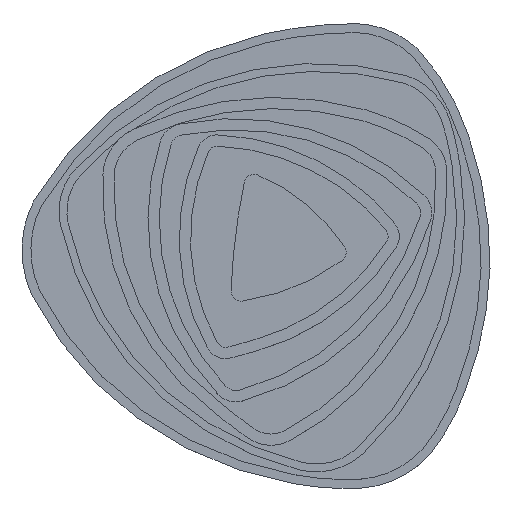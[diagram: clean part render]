
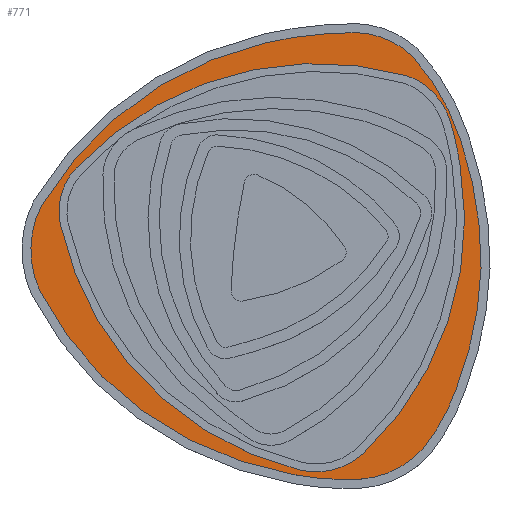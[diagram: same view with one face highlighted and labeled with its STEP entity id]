
A CAD part, top view. The second image highlights one B-rep face of the part: STEP entity #771.
In plain terms, the highlighted planar face has unit normal (0, 0, 1).
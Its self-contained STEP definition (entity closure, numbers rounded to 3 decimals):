
#369=PLANE('',#8435);
#532=FACE_BOUND('',#1879,.T.);
#533=FACE_BOUND('',#1880,.T.);
#771=ADVANCED_FACE('',(#532,#533),#369,.T.);
#1879=EDGE_LOOP('',(#3913,#3914,#3915,#3916,#3917,#3918,#3919));
#1880=EDGE_LOOP('',(#3920,#3921,#3922,#3923,#3924,#3925,#3926,#3927,#3928,
#3929,#3930,#3931));
#3913=ORIENTED_EDGE('',*,*,#6702,.T.);
#3914=ORIENTED_EDGE('',*,*,#6703,.T.);
#3915=ORIENTED_EDGE('',*,*,#6704,.T.);
#3916=ORIENTED_EDGE('',*,*,#6705,.T.);
#3917=ORIENTED_EDGE('',*,*,#6706,.T.);
#3918=ORIENTED_EDGE('',*,*,#6707,.T.);
#3919=ORIENTED_EDGE('',*,*,#6708,.T.);
#3920=ORIENTED_EDGE('',*,*,#6709,.F.);
#3921=ORIENTED_EDGE('',*,*,#6710,.F.);
#3922=ORIENTED_EDGE('',*,*,#6711,.F.);
#3923=ORIENTED_EDGE('',*,*,#6712,.F.);
#3924=ORIENTED_EDGE('',*,*,#6713,.F.);
#3925=ORIENTED_EDGE('',*,*,#6714,.F.);
#3926=ORIENTED_EDGE('',*,*,#6715,.F.);
#3927=ORIENTED_EDGE('',*,*,#6716,.F.);
#3928=ORIENTED_EDGE('',*,*,#6717,.F.);
#3929=ORIENTED_EDGE('',*,*,#6718,.F.);
#3930=ORIENTED_EDGE('',*,*,#6719,.F.);
#3931=ORIENTED_EDGE('',*,*,#6720,.F.);
#5799=VERTEX_POINT('',#12142);
#5800=VERTEX_POINT('',#12143);
#5801=VERTEX_POINT('',#12145);
#5802=VERTEX_POINT('',#12147);
#5803=VERTEX_POINT('',#12149);
#5804=VERTEX_POINT('',#12151);
#5805=VERTEX_POINT('',#12153);
#5806=VERTEX_POINT('',#12156);
#5807=VERTEX_POINT('',#12157);
#5808=VERTEX_POINT('',#12159);
#5809=VERTEX_POINT('',#12161);
#5810=VERTEX_POINT('',#12163);
#5811=VERTEX_POINT('',#12165);
#5812=VERTEX_POINT('',#12167);
#5813=VERTEX_POINT('',#12169);
#5814=VERTEX_POINT('',#12171);
#5815=VERTEX_POINT('',#12173);
#5816=VERTEX_POINT('',#12175);
#5817=VERTEX_POINT('',#12177);
#6702=EDGE_CURVE('',#5799,#5800,#7762,.T.);
#6703=EDGE_CURVE('',#5800,#5801,#7763,.T.);
#6704=EDGE_CURVE('',#5801,#5802,#7764,.T.);
#6705=EDGE_CURVE('',#5802,#5803,#7765,.T.);
#6706=EDGE_CURVE('',#5803,#5804,#7766,.T.);
#6707=EDGE_CURVE('',#5804,#5805,#7767,.T.);
#6708=EDGE_CURVE('',#5805,#5799,#7768,.T.);
#6709=EDGE_CURVE('',#5806,#5807,#7769,.T.);
#6710=EDGE_CURVE('',#5808,#5806,#7770,.T.);
#6711=EDGE_CURVE('',#5809,#5808,#7771,.T.);
#6712=EDGE_CURVE('',#5810,#5809,#7772,.T.);
#6713=EDGE_CURVE('',#5811,#5810,#7773,.T.);
#6714=EDGE_CURVE('',#5812,#5811,#7774,.T.);
#6715=EDGE_CURVE('',#5813,#5812,#7775,.T.);
#6716=EDGE_CURVE('',#5814,#5813,#7776,.T.);
#6717=EDGE_CURVE('',#5815,#5814,#7777,.T.);
#6718=EDGE_CURVE('',#5816,#5815,#7778,.T.);
#6719=EDGE_CURVE('',#5817,#5816,#7779,.T.);
#6720=EDGE_CURVE('',#5807,#5817,#7780,.T.);
#7762=CIRCLE('',#8416,42.912);
#7763=CIRCLE('',#8417,329.661);
#7764=CIRCLE('',#8418,50.12);
#7765=CIRCLE('',#8419,345.034);
#7766=CIRCLE('',#8420,316.681);
#7767=CIRCLE('',#8421,49.278);
#7768=CIRCLE('',#8422,320.821);
#7769=CIRCLE('',#8423,92.061);
#7770=CIRCLE('',#8424,448.492);
#7771=CIRCLE('',#8425,377.962);
#7772=CIRCLE('',#8426,104.73);
#7773=CIRCLE('',#8427,361.618);
#7774=CIRCLE('',#8428,394.048);
#7775=CIRCLE('',#8429,312.839);
#7776=CIRCLE('',#8430,99.127);
#7777=CIRCLE('',#8431,213.629);
#7778=CIRCLE('',#8432,388.722);
#7779=CIRCLE('',#8433,408.463);
#7780=CIRCLE('',#8434,245.498);
#8416=AXIS2_PLACEMENT_3D('',#12141,#9868,#9869);
#8417=AXIS2_PLACEMENT_3D('',#12144,#9870,#9871);
#8418=AXIS2_PLACEMENT_3D('',#12146,#9872,#9873);
#8419=AXIS2_PLACEMENT_3D('',#12148,#9874,#9875);
#8420=AXIS2_PLACEMENT_3D('',#12150,#9876,#9877);
#8421=AXIS2_PLACEMENT_3D('',#12152,#9878,#9879);
#8422=AXIS2_PLACEMENT_3D('',#12154,#9880,#9881);
#8423=AXIS2_PLACEMENT_3D('',#12155,#9882,#9883);
#8424=AXIS2_PLACEMENT_3D('',#12158,#9884,#9885);
#8425=AXIS2_PLACEMENT_3D('',#12160,#9886,#9887);
#8426=AXIS2_PLACEMENT_3D('',#12162,#9888,#9889);
#8427=AXIS2_PLACEMENT_3D('',#12164,#9890,#9891);
#8428=AXIS2_PLACEMENT_3D('',#12166,#9892,#9893);
#8429=AXIS2_PLACEMENT_3D('',#12168,#9894,#9895);
#8430=AXIS2_PLACEMENT_3D('',#12170,#9896,#9897);
#8431=AXIS2_PLACEMENT_3D('',#12172,#9898,#9899);
#8432=AXIS2_PLACEMENT_3D('',#12174,#9900,#9901);
#8433=AXIS2_PLACEMENT_3D('',#12176,#9902,#9903);
#8434=AXIS2_PLACEMENT_3D('',#12178,#9904,#9905);
#8435=AXIS2_PLACEMENT_3D('',#12179,#9906,#9907);
#9868=DIRECTION('',(0.,0.,-1.));
#9869=DIRECTION('',(1.,0.,0.));
#9870=DIRECTION('',(0.,0.,-1.));
#9871=DIRECTION('',(1.,0.,0.));
#9872=DIRECTION('',(0.,0.,-1.));
#9873=DIRECTION('',(1.,0.,0.));
#9874=DIRECTION('',(0.,0.,-1.));
#9875=DIRECTION('',(1.,0.,0.));
#9876=DIRECTION('',(0.,0.,-1.));
#9877=DIRECTION('',(1.,0.,0.));
#9878=DIRECTION('',(0.,0.,-1.));
#9879=DIRECTION('',(1.,0.,0.));
#9880=DIRECTION('',(0.,0.,-1.));
#9881=DIRECTION('',(1.,0.,0.));
#9882=DIRECTION('',(0.,0.,-1.));
#9883=DIRECTION('',(1.,0.,0.));
#9884=DIRECTION('',(0.,0.,-1.));
#9885=DIRECTION('',(1.,0.,0.));
#9886=DIRECTION('',(0.,0.,-1.));
#9887=DIRECTION('',(1.,0.,0.));
#9888=DIRECTION('',(0.,0.,-1.));
#9889=DIRECTION('',(1.,0.,0.));
#9890=DIRECTION('',(0.,0.,-1.));
#9891=DIRECTION('',(1.,0.,0.));
#9892=DIRECTION('',(0.,0.,-1.));
#9893=DIRECTION('',(1.,0.,0.));
#9894=DIRECTION('',(0.,0.,-1.));
#9895=DIRECTION('',(1.,0.,0.));
#9896=DIRECTION('',(0.,0.,-1.));
#9897=DIRECTION('',(1.,0.,0.));
#9898=DIRECTION('',(0.,0.,-1.));
#9899=DIRECTION('',(1.,0.,0.));
#9900=DIRECTION('',(0.,0.,-1.));
#9901=DIRECTION('',(1.,0.,0.));
#9902=DIRECTION('',(0.,0.,-1.));
#9903=DIRECTION('',(1.,0.,0.));
#9904=DIRECTION('',(0.,0.,-1.));
#9905=DIRECTION('',(1.,0.,0.));
#9906=DIRECTION('',(0.,0.,1.));
#9907=DIRECTION('',(1.,0.,0.));
#12141=CARTESIAN_POINT('',(3324.629,1787.265,-37.));
#12142=CARTESIAN_POINT('',(3282.633,1778.448,-37.));
#12143=CARTESIAN_POINT('',(3293.374,1816.668,-37.));
#12144=CARTESIAN_POINT('',(3533.484,1590.784,-37.));
#12145=CARTESIAN_POINT('',(3620.88,1908.649,-37.));
#12146=CARTESIAN_POINT('',(3603.008,1861.824,-37.));
#12147=CARTESIAN_POINT('',(3651.179,1875.665,-37.));
#12148=CARTESIAN_POINT('',(3319.49,1780.63,-37.));
#12149=CARTESIAN_POINT('',(3660.6,1832.526,-37.));
#12150=CARTESIAN_POINT('',(3348.543,1778.605,-37.));
#12151=CARTESIAN_POINT('',(3564.797,1547.258,-37.));
#12152=CARTESIAN_POINT('',(3531.146,1583.258,-37.));
#12153=CARTESIAN_POINT('',(3519.365,1535.408,-37.));
#12154=CARTESIAN_POINT('',(3596.06,1846.928,-37.));
#12155=CARTESIAN_POINT('',(3571.025,1886.501,-37.));
#12156=CARTESIAN_POINT('',(3574.176,1978.509,-37.));
#12157=CARTESIAN_POINT('',(3633.723,1953.913,-37.));
#12158=CARTESIAN_POINT('',(3575.741,1530.02,-37.));
#12159=CARTESIAN_POINT('',(3477.305,1967.576,-37.));
#12160=CARTESIAN_POINT('',(3562.158,1599.261,-37.));
#12161=CARTESIAN_POINT('',(3238.223,1793.996,-37.));
#12162=CARTESIAN_POINT('',(3331.455,1746.287,-37.));
#12163=CARTESIAN_POINT('',(3236.021,1703.151,-37.));
#12164=CARTESIAN_POINT('',(3558.508,1866.764,-37.));
#12165=CARTESIAN_POINT('',(3345.871,1574.27,-37.));
#12166=CARTESIAN_POINT('',(3575.899,1894.209,-37.));
#12167=CARTESIAN_POINT('',(3508.915,1505.896,-37.));
#12168=CARTESIAN_POINT('',(3564.792,1813.704,-37.));
#12169=CARTESIAN_POINT('',(3578.217,1501.153,-37.));
#12170=CARTESIAN_POINT('',(3571.866,1600.076,-37.));
#12171=CARTESIAN_POINT('',(3645.801,1534.048,-37.));
#12172=CARTESIAN_POINT('',(3479.398,1668.016,-37.));
#12173=CARTESIAN_POINT('',(3680.981,1597.294,-37.));
#12174=CARTESIAN_POINT('',(3319.254,1739.626,-37.));
#12175=CARTESIAN_POINT('',(3707.754,1726.502,-37.));
#12176=CARTESIAN_POINT('',(3299.323,1731.639,-37.));
#12177=CARTESIAN_POINT('',(3686.115,1862.918,-37.));
#12178=CARTESIAN_POINT('',(3452.088,1788.752,-37.));
#12179=CARTESIAN_POINT('',(3429.056,1689.024,-37.));
